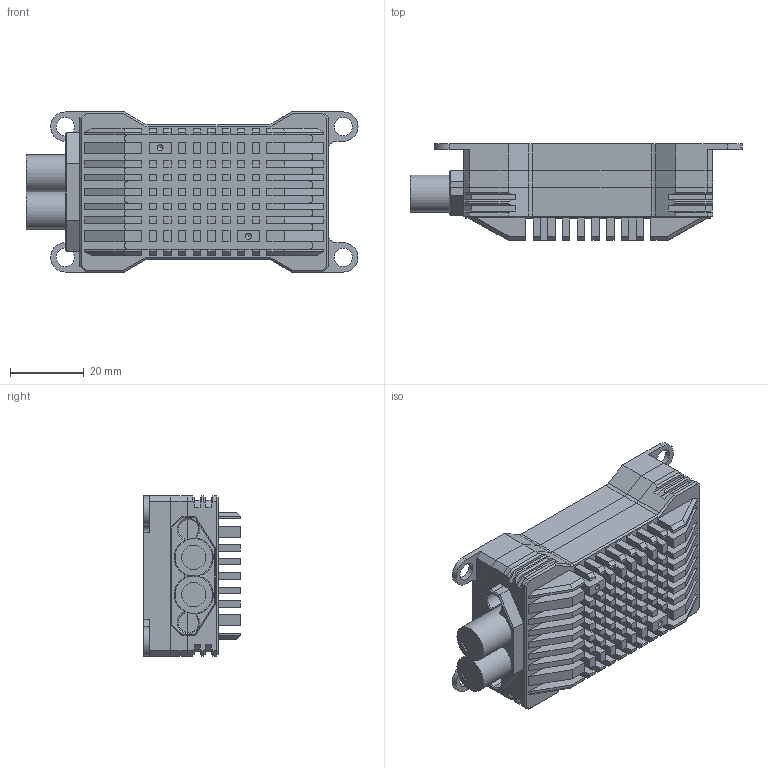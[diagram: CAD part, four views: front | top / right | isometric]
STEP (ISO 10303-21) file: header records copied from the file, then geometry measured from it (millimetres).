
FILE_DESCRIPTION(/* description */ (''),/* implementation_level */ '2;1');
FILE_NAME(/* name */ 'Saphir-Aureus V2 135-155 ANL v2.step',/* time_stamp */ '2026-03-13T09:41:01+01:00',/* author */ (''),/* organization */ (''),/* preprocessor_version */ 'ST-DEVELOPER v20.1',/* originating_system */ 'Autodesk Translation Framework v14.24.0.0',/* authorisation */ '');
FILE_SCHEMA (('AUTOMOTIVE_DESIGN { 1 0 10303 214 3 1 1 }'));
Length unit declared in the file: millimetre
Products named in the file (5): Aureus 135 V2 - ANL; Elkos; Oberteil; Unterteil; Zwischenteil
Assembly tree (4 placements, depth 2):
  Aureus 135 V2 - ANL
    Elkos
    Oberteil
    Unterteil
    Zwischenteil
Bounding box: 90.15 x 26.16 x 43.5 mm (x, y, z)
Volume: 57829.4 mm3; surface area: 31432.5 mm2
Topology: 5 solids, 5 shells, 786 faces, 2075 edges, 1364 vertices
Faces by surface type: plane 681, cylinder 81, cone 24
Full cylindrical faces by diameter (mm): 0.6 x4, 1.623 x6, 2 x8, 5 x4, 6.6 x2, 10.15 x1
Entity records: 24149 total; most frequent: CARTESIAN_POINT 4245, ORIENTED_EDGE 4138, DIRECTION 3833, EDGE_CURVE 2069, LINE 1881, VECTOR 1881, VERTEX_POINT 1364, AXIS2_PLACEMENT_3D 976
